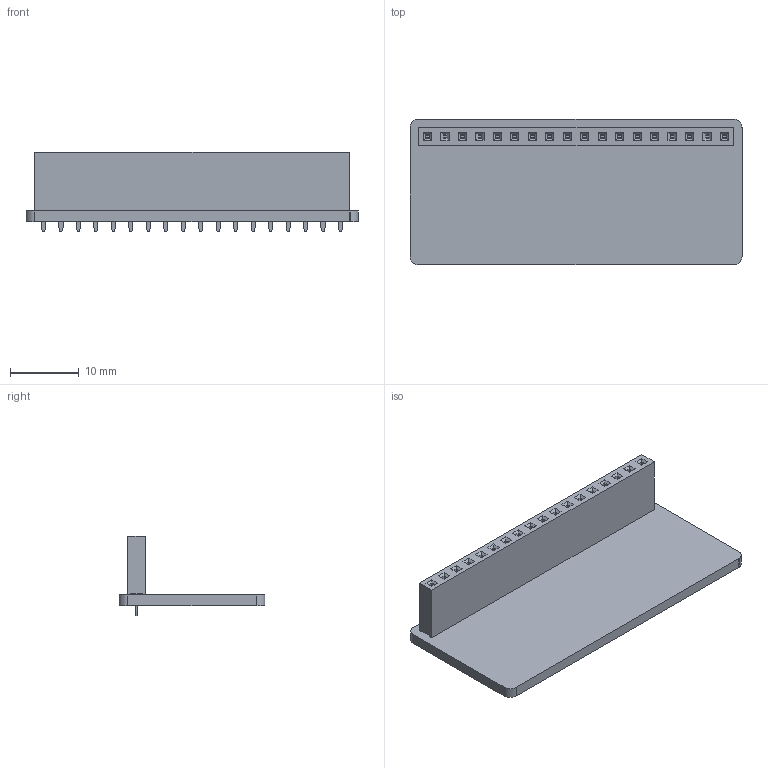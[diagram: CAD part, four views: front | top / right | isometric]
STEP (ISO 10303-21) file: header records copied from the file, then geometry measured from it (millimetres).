
FILE_DESCRIPTION(('KiCad electronic assembly'),'2;1');
FILE_NAME('NX-ButtonInterface.step','2025-01-15T16:25:47',('Pcbnew'),( 'Kicad'),'Open CASCADE STEP processor 7.6','KiCad to STEP converter' ,'Unknown');
FILE_SCHEMA(('AUTOMOTIVE_DESIGN { 1 0 10303 214 1 1 1 1 }'));
Length unit declared in the file: millimetre
Products named in the file (4): NX-ButtonInterface 1; PinSocket_1x18_P2.54mm_Vertical; NX-ButtonInterface_PCB
Assembly tree (3 placements, depth 3):
  NX-ButtonInterface 1
    PinSocket_1x18_P2.54mm_Vertical
      PinSocket_1x18_P2.54mm_Vertical
    NX-ButtonInterface_PCB
Bounding box: 48.26 x 21.21 x 11.6 mm (x, y, z)
Volume: 2517 mm3; surface area: 3832 mm2
Topology: 2 solids, 2 shells, 510 faces, 1338 edges, 868 vertices
Faces by surface type: plane 488, cylinder 22
Full cylindrical faces by diameter (mm): 1 x18
Entity records: 18802 total; most frequent: CARTESIAN_POINT 2720, ORIENTED_EDGE 2676, DIRECTION 2410, EDGE_CURVE 1338, LINE 1294, VECTOR 1294, VERTEX_POINT 868, FACE_BOUND 582
